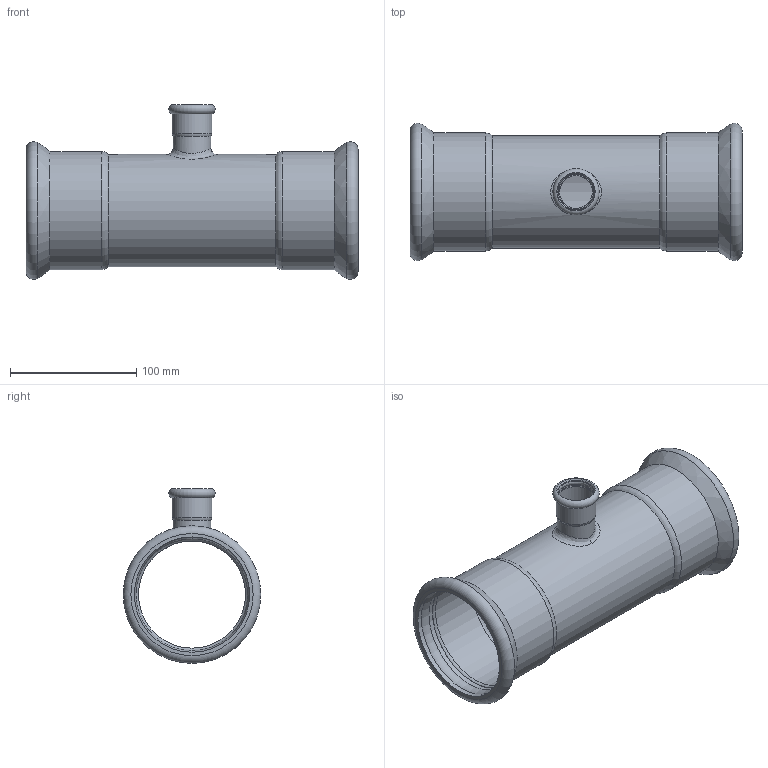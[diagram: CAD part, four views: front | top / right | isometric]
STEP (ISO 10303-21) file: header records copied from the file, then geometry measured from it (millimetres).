
FILE_DESCRIPTION(/* description */ ('TEE RIDOTTO 88,9-28-88,9'),/* implementation_level */ '2;1');
FILE_NAME(/* name */ 'T:\A_ARTICOLI\ARTICOLI PRODOTTI_WEB\Articoli_STEELPRES_WEB\Temporary Step\392088028_Steelpres.ipt.step',/* time_stamp */ '2016-01-19T16:43:09+01:00',/* author */ ('Ghirlinghelli Diego'),/* organization */ (''),/* preprocessor_version */ 'ST-DEVELOPER v15.2',/* originating_system */ 'Autodesk Inventor 2014',/* authorisation */ 'R.M. S.p.A. si riserva a termini di legge la proprietà del presente disegno con divieto di riprodurlo o comunicarlo a terzi senza sua autorizzazione scritta');
FILE_SCHEMA (('AUTOMOTIVE_DESIGN { 1 0 10303 214 3 1 1 }'));
Length unit declared in the file: millimetre
Products named in the file (1): 392088028_Steelpres
Bounding box: 263 x 108.99 x 138.44 mm (x, y, z)
Volume: 211389.5 mm3; surface area: 161766.5 mm2
Topology: 1 solids, 1 shells, 42 faces, 98 edges, 59 vertices
Faces by surface type: cylinder 17, torus 15, bspline 4, cone 3, plane 3
Full cylindrical faces by diameter (mm): 26 x1, 27 x1, 28.4 x1, 28.8 x2, 30 x1, 31.4 x1, 84.9 x1, 88.9 x1, 89.5 x2, 91.3 x4, 93.5 x2
Entity records: 1311 total; most frequent: CARTESIAN_POINT 536, DIRECTION 168, ORIENTED_EDGE 102, AXIS2_PLACEMENT_3D 84, EDGE_LOOP 82, EDGE_CURVE 51, VERTEX_POINT 47, CIRCLE 45
